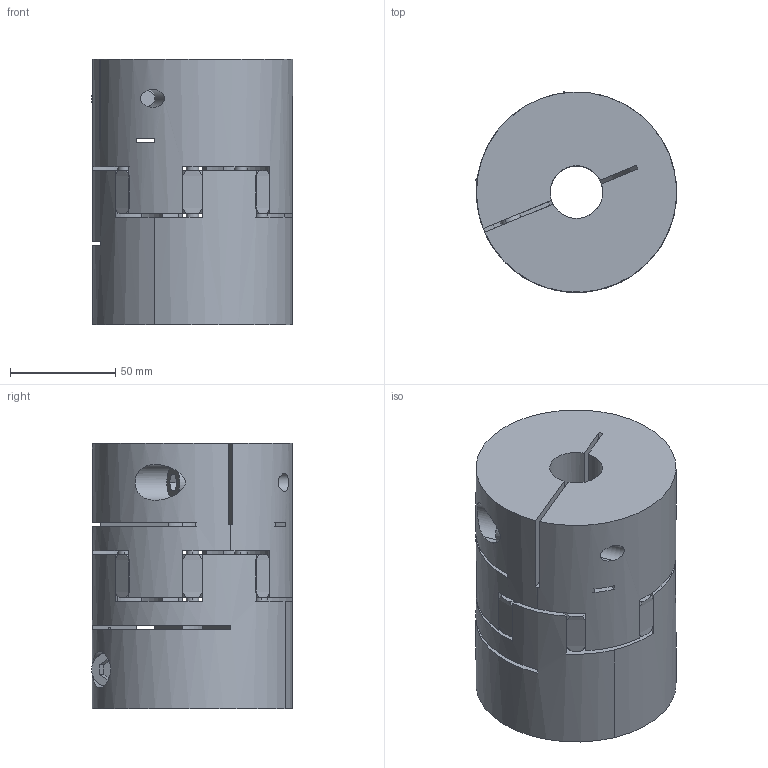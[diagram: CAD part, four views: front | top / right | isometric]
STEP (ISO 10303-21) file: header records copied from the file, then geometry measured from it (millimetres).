
FILE_DESCRIPTION (( 'STEP AP214' ), '1' );
FILE_NAME ('LC-C-095-25B-25B.STEP', '2019-09-19T02:18:00', ( 'admin' ), ( 'Microsoft' ), 'SwSTEP 2.0', 'SolidWorks 2016', '' );
FILE_SCHEMA (( 'AUTOMOTIVE_DESIGN' ));
Length unit declared in the file: millimetre
Products named in the file (1): LC-C-095-25B-25B
Bounding box: 95.41 x 95.41 x 125.8 mm (x, y, z)
Volume: 760194.1 mm3; surface area: 123526.7 mm2
Topology: 5 solids, 5 shells, 247 faces, 663 edges, 436 vertices
Faces by surface type: cylinder 125, plane 70, cone 44, torus 8
Entity records: 11120 total; most frequent: CARTESIAN_POINT 1915, DIRECTION 1419, ORIENTED_EDGE 1326, EDGE_CURVE 663, AXIS2_PLACEMENT_3D 588, VERTEX_POINT 436, CIRCLE 340, EDGE_LOOP 283
